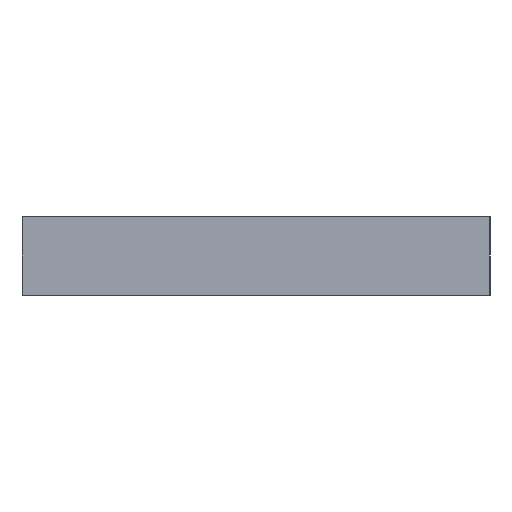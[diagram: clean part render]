
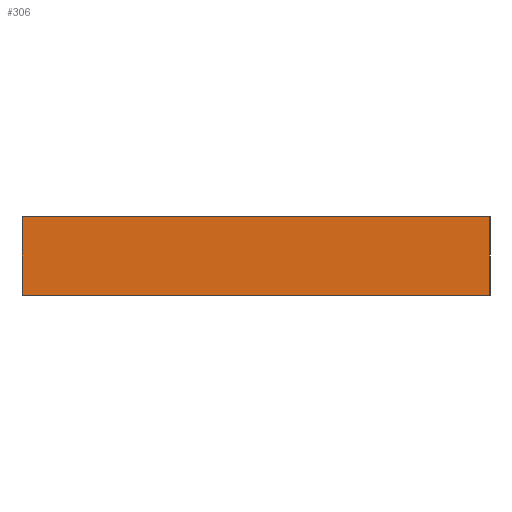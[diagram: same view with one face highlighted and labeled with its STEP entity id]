
A CAD part, left-side view. The second image highlights one B-rep face of the part: STEP entity #306.
In plain terms, the highlighted planar face has unit normal (-1, 0, 0).
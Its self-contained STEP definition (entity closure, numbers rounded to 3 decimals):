
#43 = EDGE_CURVE('',#44,#46,#48,.T.);
#44 = VERTEX_POINT('',#45);
#45 = CARTESIAN_POINT('',(-28.,-3.,9.95));
#46 = VERTEX_POINT('',#47);
#47 = CARTESIAN_POINT('',(-28.,-3.,10.95));
#48 = SURFACE_CURVE('',#49,(#53,#65),.PCURVE_S1.);
#49 = LINE('',#50,#51);
#50 = CARTESIAN_POINT('',(-28.,-3.,9.95));
#51 = VECTOR('',#52,1.);
#52 = DIRECTION('',(0.,0.,1.));
#53 = PCURVE('',#54,#59);
#54 = PLANE('',#55);
#55 = AXIS2_PLACEMENT_3D('',#56,#57,#58);
#56 = CARTESIAN_POINT('',(-28.,-3.,9.95));
#57 = DIRECTION('',(0.,1.,0.));
#58 = DIRECTION('',(1.,0.,0.));
#59 = DEFINITIONAL_REPRESENTATION('',(#60),#64);
#60 = LINE('',#61,#62);
#61 = CARTESIAN_POINT('',(0.,0.));
#62 = VECTOR('',#63,1.);
#63 = DIRECTION('',(0.,-1.));
#64 = ( GEOMETRIC_REPRESENTATION_CONTEXT(2) 
PARAMETRIC_REPRESENTATION_CONTEXT() REPRESENTATION_CONTEXT('2D SPACE',''
  ) );
#65 = PCURVE('',#66,#71);
#66 = PLANE('',#67);
#67 = AXIS2_PLACEMENT_3D('',#68,#69,#70);
#68 = CARTESIAN_POINT('',(-28.,3.,9.95));
#69 = DIRECTION('',(1.,0.,-0.));
#70 = DIRECTION('',(0.,-1.,0.));
#71 = DEFINITIONAL_REPRESENTATION('',(#72),#76);
#72 = LINE('',#73,#74);
#73 = CARTESIAN_POINT('',(6.,0.));
#74 = VECTOR('',#75,1.);
#75 = DIRECTION('',(0.,-1.));
#76 = ( GEOMETRIC_REPRESENTATION_CONTEXT(2) 
PARAMETRIC_REPRESENTATION_CONTEXT() REPRESENTATION_CONTEXT('2D SPACE',''
  ) );
#94 = PLANE('',#95);
#95 = AXIS2_PLACEMENT_3D('',#96,#97,#98);
#96 = CARTESIAN_POINT('',(-24.,0.,10.95));
#97 = DIRECTION('',(0.,0.,1.));
#98 = DIRECTION('',(1.,0.,-0.));
#148 = PLANE('',#149);
#149 = AXIS2_PLACEMENT_3D('',#150,#151,#152);
#150 = CARTESIAN_POINT('',(-24.,0.,9.95));
#151 = DIRECTION('',(0.,0.,1.));
#152 = DIRECTION('',(1.,0.,-0.));
#203 = PLANE('',#204);
#204 = AXIS2_PLACEMENT_3D('',#205,#206,#207);
#205 = CARTESIAN_POINT('',(-20.,3.,9.95));
#206 = DIRECTION('',(0.,-1.,0.));
#207 = DIRECTION('',(-1.,0.,0.));
#241 = VERTEX_POINT('',#242);
#242 = CARTESIAN_POINT('',(-28.,3.,10.95));
#263 = EDGE_CURVE('',#264,#241,#266,.T.);
#264 = VERTEX_POINT('',#265);
#265 = CARTESIAN_POINT('',(-28.,3.,9.95));
#266 = SURFACE_CURVE('',#267,(#271,#278),.PCURVE_S1.);
#267 = LINE('',#268,#269);
#268 = CARTESIAN_POINT('',(-28.,3.,9.95));
#269 = VECTOR('',#270,1.);
#270 = DIRECTION('',(0.,0.,1.));
#271 = PCURVE('',#203,#272);
#272 = DEFINITIONAL_REPRESENTATION('',(#273),#277);
#273 = LINE('',#274,#275);
#274 = CARTESIAN_POINT('',(8.,0.));
#275 = VECTOR('',#276,1.);
#276 = DIRECTION('',(0.,-1.));
#277 = ( GEOMETRIC_REPRESENTATION_CONTEXT(2) 
PARAMETRIC_REPRESENTATION_CONTEXT() REPRESENTATION_CONTEXT('2D SPACE',''
  ) );
#278 = PCURVE('',#66,#279);
#279 = DEFINITIONAL_REPRESENTATION('',(#280),#284);
#280 = LINE('',#281,#282);
#281 = CARTESIAN_POINT('',(0.,0.));
#282 = VECTOR('',#283,1.);
#283 = DIRECTION('',(0.,-1.));
#284 = ( GEOMETRIC_REPRESENTATION_CONTEXT(2) 
PARAMETRIC_REPRESENTATION_CONTEXT() REPRESENTATION_CONTEXT('2D SPACE',''
  ) );
#306 = ADVANCED_FACE('',(#307),#66,.F.);
#307 = FACE_BOUND('',#308,.F.);
#308 = EDGE_LOOP('',(#309,#310,#331,#332));
#309 = ORIENTED_EDGE('',*,*,#263,.T.);
#310 = ORIENTED_EDGE('',*,*,#311,.T.);
#311 = EDGE_CURVE('',#241,#46,#312,.T.);
#312 = SURFACE_CURVE('',#313,(#317,#324),.PCURVE_S1.);
#313 = LINE('',#314,#315);
#314 = CARTESIAN_POINT('',(-28.,3.,10.95));
#315 = VECTOR('',#316,1.);
#316 = DIRECTION('',(0.,-1.,0.));
#317 = PCURVE('',#66,#318);
#318 = DEFINITIONAL_REPRESENTATION('',(#319),#323);
#319 = LINE('',#320,#321);
#320 = CARTESIAN_POINT('',(0.,-1.));
#321 = VECTOR('',#322,1.);
#322 = DIRECTION('',(1.,0.));
#323 = ( GEOMETRIC_REPRESENTATION_CONTEXT(2) 
PARAMETRIC_REPRESENTATION_CONTEXT() REPRESENTATION_CONTEXT('2D SPACE',''
  ) );
#324 = PCURVE('',#94,#325);
#325 = DEFINITIONAL_REPRESENTATION('',(#326),#330);
#326 = LINE('',#327,#328);
#327 = CARTESIAN_POINT('',(-4.,3.));
#328 = VECTOR('',#329,1.);
#329 = DIRECTION('',(0.,-1.));
#330 = ( GEOMETRIC_REPRESENTATION_CONTEXT(2) 
PARAMETRIC_REPRESENTATION_CONTEXT() REPRESENTATION_CONTEXT('2D SPACE',''
  ) );
#331 = ORIENTED_EDGE('',*,*,#43,.F.);
#332 = ORIENTED_EDGE('',*,*,#333,.F.);
#333 = EDGE_CURVE('',#264,#44,#334,.T.);
#334 = SURFACE_CURVE('',#335,(#339,#346),.PCURVE_S1.);
#335 = LINE('',#336,#337);
#336 = CARTESIAN_POINT('',(-28.,3.,9.95));
#337 = VECTOR('',#338,1.);
#338 = DIRECTION('',(0.,-1.,0.));
#339 = PCURVE('',#66,#340);
#340 = DEFINITIONAL_REPRESENTATION('',(#341),#345);
#341 = LINE('',#342,#343);
#342 = CARTESIAN_POINT('',(0.,0.));
#343 = VECTOR('',#344,1.);
#344 = DIRECTION('',(1.,0.));
#345 = ( GEOMETRIC_REPRESENTATION_CONTEXT(2) 
PARAMETRIC_REPRESENTATION_CONTEXT() REPRESENTATION_CONTEXT('2D SPACE',''
  ) );
#346 = PCURVE('',#148,#347);
#347 = DEFINITIONAL_REPRESENTATION('',(#348),#352);
#348 = LINE('',#349,#350);
#349 = CARTESIAN_POINT('',(-4.,3.));
#350 = VECTOR('',#351,1.);
#351 = DIRECTION('',(0.,-1.));
#352 = ( GEOMETRIC_REPRESENTATION_CONTEXT(2) 
PARAMETRIC_REPRESENTATION_CONTEXT() REPRESENTATION_CONTEXT('2D SPACE',''
  ) );
